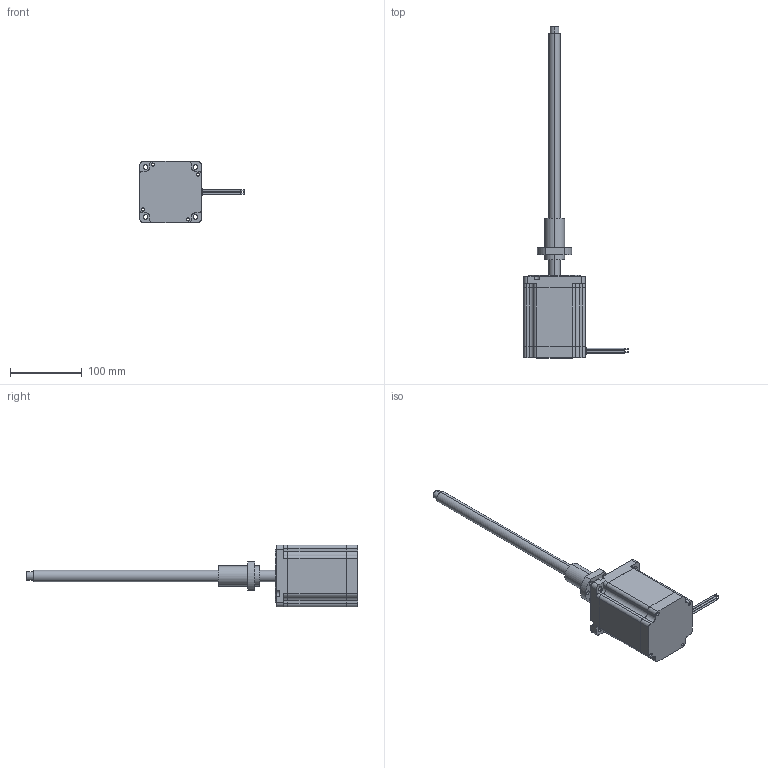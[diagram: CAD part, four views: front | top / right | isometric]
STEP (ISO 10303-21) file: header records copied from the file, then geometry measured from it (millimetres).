
FILE_DESCRIPTION (( 'STEP AP203' ), '1' );
FILE_NAME ('86E2114-BS1620-6-4-350-001.STEP', '2020-01-15T08:25:13', ( '' ), ( '' ), 'SwSTEP 2.0', 'SolidWorks 2017', '' );
FILE_SCHEMA (( 'CONFIG_CONTROL_DESIGN' ));
Length unit declared in the file: millimetre
Products named in the file (1): 86E2114-BS1620-6-4-350-001
Bounding box: 146 x 464 x 86 mm (x, y, z)
Volume: 867545.2 mm3; surface area: 94578.5 mm2
Topology: 3 solids, 3 shells, 225 faces, 587 edges, 385 vertices
Faces by surface type: cylinder 125, plane 85, torus 8, cone 7
Entity records: 7167 total; most frequent: DIRECTION 1312, CARTESIAN_POINT 1198, ORIENTED_EDGE 1174, EDGE_CURVE 587, AXIS2_PLACEMENT_3D 499, VERTEX_POINT 385, LINE 314, VECTOR 314
